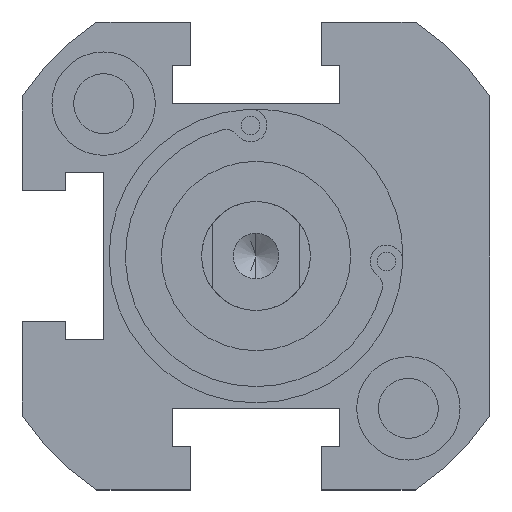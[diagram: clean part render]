
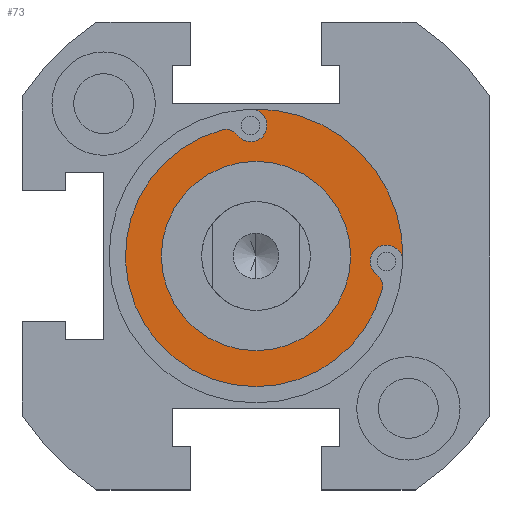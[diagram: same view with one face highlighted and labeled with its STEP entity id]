
A CAD part, front view. The second image highlights one B-rep face of the part: STEP entity #73.
In plain terms, the highlighted planar face has unit normal (0, -1, 0) as drawn and (0, 1, 0) by its records, which use the part's own axes.
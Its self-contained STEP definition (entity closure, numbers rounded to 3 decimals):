
#12 = CARTESIAN_POINT ( 'NONE',  ( 11.994, -2., 0.495 ) ) ;
#73 = ADVANCED_FACE ( 'NONE', ( #1039, #1648 ), #348, .T. ) ;
#213 = AXIS2_PLACEMENT_3D ( 'NONE', #461, #2037, #1362 ) ;
#278 = EDGE_CURVE ( 'NONE', #1862, #954, #965, .T. ) ;
#294 = ORIENTED_EDGE ( 'NONE', *, *, #427, .F. ) ;
#304 = DIRECTION ( 'NONE',  ( 0., 0., 1. ) ) ;
#313 = CARTESIAN_POINT ( 'NONE',  ( 0., -2., 12. ) ) ;
#325 = AXIS2_PLACEMENT_3D ( 'NONE', #2866, #2435, #555 ) ;
#348 = PLANE ( 'NONE',  #869 ) ;
#427 = EDGE_CURVE ( 'NONE', #1136, #624, #3003, .T. ) ;
#461 = CARTESIAN_POINT ( 'NONE',  ( 0., -2., 0. ) ) ;
#465 = CARTESIAN_POINT ( 'NONE',  ( -0.444, -2., -13.493 ) ) ;
#498 = CARTESIAN_POINT ( 'NONE',  ( 0., -2., 8.7 ) ) ;
#499 = DIRECTION ( 'NONE',  ( 0., -1., 0. ) ) ;
#555 = DIRECTION ( 'NONE',  ( 0., 0., 1. ) ) ;
#582 = CIRCLE ( 'NONE', #2122, 1.5 ) ;
#624 = VERTEX_POINT ( 'NONE', #1982 ) ;
#668 = AXIS2_PLACEMENT_3D ( 'NONE', #2908, #1034, #2675 ) ;
#682 = DIRECTION ( 'NONE',  ( 0., 0., 1. ) ) ;
#722 = DIRECTION ( 'NONE',  ( 0., 0., 1. ) ) ;
#764 = CARTESIAN_POINT ( 'NONE',  ( 11.596, -2., 3.089 ) ) ;
#765 = CIRCLE ( 'NONE', #858, 8.7 ) ;
#772 = EDGE_LOOP ( 'NONE', ( #294, #2168 ) ) ;
#787 = AXIS2_PLACEMENT_3D ( 'NONE', #2805, #1595, #682 ) ;
#810 = CARTESIAN_POINT ( 'NONE',  ( 0., -2., 0. ) ) ;
#854 = CARTESIAN_POINT ( 'NONE',  ( -1.705, -2., -11.107 ) ) ;
#858 = AXIS2_PLACEMENT_3D ( 'NONE', #1294, #2927, #1525 ) ;
#869 = AXIS2_PLACEMENT_3D ( 'NONE', #810, #2440, #2898 ) ;
#953 = CARTESIAN_POINT ( 'NONE',  ( 13.493, -2., 0.444 ) ) ;
#954 = VERTEX_POINT ( 'NONE', #1420 ) ;
#965 = CIRCLE ( 'NONE', #787, 1.3 ) ;
#994 = DIRECTION ( 'NONE',  ( 0., 1., 0. ) ) ;
#1000 = DIRECTION ( 'NONE',  ( 0., 1., 0. ) ) ;
#1008 = EDGE_LOOP ( 'NONE', ( #2796, #2454, #1138, #2064, #2525, #2133, #2377, #1834 ) ) ;
#1034 = DIRECTION ( 'NONE',  ( 0., 1., 0. ) ) ;
#1039 = FACE_OUTER_BOUND ( 'NONE', #1008, .T. ) ;
#1058 = EDGE_CURVE ( 'NONE', #954, #2442, #2915, .T. ) ;
#1110 = CARTESIAN_POINT ( 'NONE',  ( 11.107, -2., 1.705 ) ) ;
#1136 = VERTEX_POINT ( 'NONE', #498 ) ;
#1138 = ORIENTED_EDGE ( 'NONE', *, *, #1058, .T. ) ;
#1227 = CIRCLE ( 'NONE', #2286, 1.3 ) ;
#1252 = AXIS2_PLACEMENT_3D ( 'NONE', #2104, #2077, #722 ) ;
#1294 = CARTESIAN_POINT ( 'NONE',  ( 0., -2., 0. ) ) ;
#1316 = VERTEX_POINT ( 'NONE', #1694 ) ;
#1358 = VERTEX_POINT ( 'NONE', #764 ) ;
#1361 = AXIS2_PLACEMENT_3D ( 'NONE', #2394, #1000, #2637 ) ;
#1362 = DIRECTION ( 'NONE',  ( 0., 0., 1. ) ) ;
#1420 = CARTESIAN_POINT ( 'NONE',  ( -3.089, -2., -11.596 ) ) ;
#1525 = DIRECTION ( 'NONE',  ( 0., 0., 1. ) ) ;
#1595 = DIRECTION ( 'NONE',  ( 0., 1., 0. ) ) ;
#1614 = DIRECTION ( 'NONE',  ( 0., 0., 1. ) ) ;
#1648 = FACE_BOUND ( 'NONE', #772, .T. ) ;
#1694 = CARTESIAN_POINT ( 'NONE',  ( -0.495, -2., -10.494 ) ) ;
#1823 = EDGE_CURVE ( 'NONE', #1316, #2216, #582, .T. ) ;
#1834 = ORIENTED_EDGE ( 'NONE', *, *, #1823, .F. ) ;
#1846 = EDGE_CURVE ( 'NONE', #2442, #1358, #2621, .T. ) ;
#1862 = VERTEX_POINT ( 'NONE', #854 ) ;
#1930 = EDGE_CURVE ( 'NONE', #1358, #2728, #1227, .T. ) ;
#1939 = DIRECTION ( 'NONE',  ( 0., 0., 1. ) ) ;
#1966 = DIRECTION ( 'NONE',  ( 0., 1., 0. ) ) ;
#1982 = CARTESIAN_POINT ( 'NONE',  ( 0., -2., -8.7 ) ) ;
#2037 = DIRECTION ( 'NONE',  ( 0., 1., 0. ) ) ;
#2064 = ORIENTED_EDGE ( 'NONE', *, *, #1846, .T. ) ;
#2077 = DIRECTION ( 'NONE',  ( 0., 1., 0. ) ) ;
#2104 = CARTESIAN_POINT ( 'NONE',  ( 0., -2., 0. ) ) ;
#2122 = AXIS2_PLACEMENT_3D ( 'NONE', #2384, #994, #304 ) ;
#2133 = ORIENTED_EDGE ( 'NONE', *, *, #2965, .T. ) ;
#2136 = CIRCLE ( 'NONE', #2975, 1.5 ) ;
#2168 = ORIENTED_EDGE ( 'NONE', *, *, #2792, .F. ) ;
#2186 = CARTESIAN_POINT ( 'NONE',  ( 10.339, -2., 2.754 ) ) ;
#2216 = VERTEX_POINT ( 'NONE', #465 ) ;
#2286 = AXIS2_PLACEMENT_3D ( 'NONE', #2186, #1966, #1939 ) ;
#2377 = ORIENTED_EDGE ( 'NONE', *, *, #2865, .T. ) ;
#2384 = CARTESIAN_POINT ( 'NONE',  ( -0.495, -2., -11.994 ) ) ;
#2394 = CARTESIAN_POINT ( 'NONE',  ( 0., -2., 0. ) ) ;
#2435 = DIRECTION ( 'NONE',  ( 0., 1., 0. ) ) ;
#2440 = DIRECTION ( 'NONE',  ( 0., 1., 0. ) ) ;
#2442 = VERTEX_POINT ( 'NONE', #313 ) ;
#2454 = ORIENTED_EDGE ( 'NONE', *, *, #278, .T. ) ;
#2525 = ORIENTED_EDGE ( 'NONE', *, *, #1930, .T. ) ;
#2530 = EDGE_CURVE ( 'NONE', #1862, #1316, #2988, .T. ) ;
#2621 = CIRCLE ( 'NONE', #1361, 12. ) ;
#2637 = DIRECTION ( 'NONE',  ( 0., 0., 1. ) ) ;
#2675 = DIRECTION ( 'NONE',  ( 0., 0., 1. ) ) ;
#2728 = VERTEX_POINT ( 'NONE', #1110 ) ;
#2773 = CIRCLE ( 'NONE', #213, 13.5 ) ;
#2792 = EDGE_CURVE ( 'NONE', #624, #1136, #765, .T. ) ;
#2796 = ORIENTED_EDGE ( 'NONE', *, *, #2530, .F. ) ;
#2805 = CARTESIAN_POINT ( 'NONE',  ( -2.754, -2., -10.339 ) ) ;
#2865 = EDGE_CURVE ( 'NONE', #2969, #2216, #2773, .T. ) ;
#2866 = CARTESIAN_POINT ( 'NONE',  ( 0., -2., 0. ) ) ;
#2898 = DIRECTION ( 'NONE',  ( 0., 0., 1. ) ) ;
#2908 = CARTESIAN_POINT ( 'NONE',  ( -0.495, -2., -11.994 ) ) ;
#2915 = CIRCLE ( 'NONE', #1252, 12. ) ;
#2927 = DIRECTION ( 'NONE',  ( 0., 1., 0. ) ) ;
#2965 = EDGE_CURVE ( 'NONE', #2728, #2969, #2136, .T. ) ;
#2969 = VERTEX_POINT ( 'NONE', #953 ) ;
#2975 = AXIS2_PLACEMENT_3D ( 'NONE', #12, #499, #1614 ) ;
#2988 = CIRCLE ( 'NONE', #668, 1.5 ) ;
#3003 = CIRCLE ( 'NONE', #325, 8.7 ) ;
